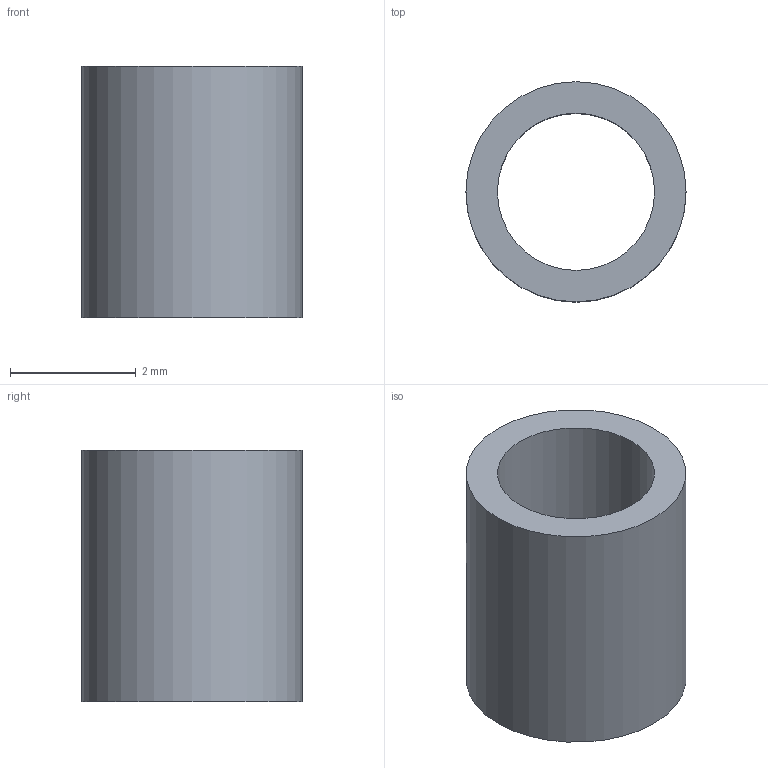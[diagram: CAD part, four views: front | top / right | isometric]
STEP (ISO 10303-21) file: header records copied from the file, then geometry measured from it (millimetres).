
FILE_DESCRIPTION(('Open CASCADE Model'),'2;1');
FILE_NAME('Open CASCADE Shape Model','2026-11-23T18:10:00',('Author'),( 'Open CASCADE'),'Open CASCADE STEP processor 8.0','build123d', 'Unknown');
FILE_SCHEMA(('AUTOMOTIVE_DESIGN { 1 0 10303 214 1 1 1 1 }'));
Length unit declared in the file: millimetre
Products named in the file (2): =>[0:1:1:2]; SOLID
Assembly tree (1 placements, depth 2):
  =>[0:1:1:2]
    SOLID
Bounding box: 3.5 x 3.5 x 4 mm (x, y, z)
Volume: 18.8 mm3; surface area: 84.8 mm2
Topology: 1 solids, 1 shells, 4 faces, 6 edges, 4 vertices
Faces by surface type: cylinder 2, plane 2
Full cylindrical faces by diameter (mm): 2.5 x1, 3.5 x1
Entity records: 204 total; most frequent: DIRECTION 34, CARTESIAN_POINT 28, ORIENTED_EDGE 12, PCURVE 12, DEFINITIONAL_REPRESENTATION 12, AXIS2_PLACEMENT_3D 10, LINE 10, VECTOR 10
